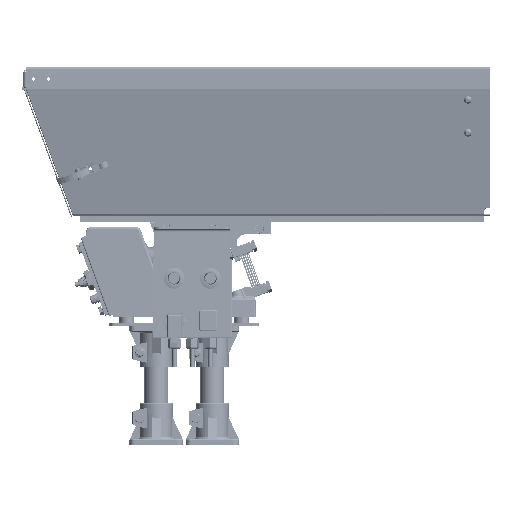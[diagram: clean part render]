
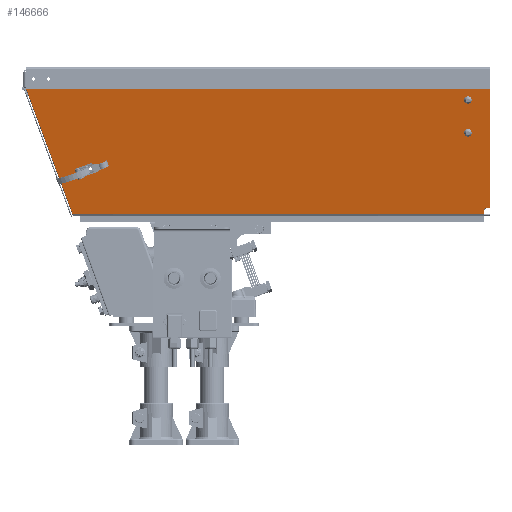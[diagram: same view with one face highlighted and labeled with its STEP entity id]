
A CAD part, front view. The second image highlights one B-rep face of the part: STEP entity #146666.
In plain terms, the highlighted planar face has unit normal (0, -0.982, -0.191).
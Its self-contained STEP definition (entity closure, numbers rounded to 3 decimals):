
#125 = EDGE_CURVE ( 'NONE', #52895, #129155, #135092, .T. ) ;
#811 = CARTESIAN_POINT ( 'NONE',  ( 313., -127.168, 139.767 ) ) ;
#1325 = VERTEX_POINT ( 'NONE', #59869 ) ;
#1544 = EDGE_CURVE ( 'NONE', #49439, #42062, #140634, .T. ) ;
#3778 = CIRCLE ( 'NONE', #60984, 2.75 ) ;
#6112 = CIRCLE ( 'NONE', #89555, 1.3 ) ;
#9141 = EDGE_CURVE ( 'NONE', #89306, #61274, #37746, .T. ) ;
#9212 = DIRECTION ( 'NONE',  ( 0., -0.982, -0.191 ) ) ;
#9929 = DIRECTION ( 'NONE',  ( 0., -0.982, -0.191 ) ) ;
#10908 = CIRCLE ( 'NONE', #94330, 3.05 ) ;
#11238 = DIRECTION ( 'NONE',  ( -1., 0., 0. ) ) ;
#12102 = AXIS2_PLACEMENT_3D ( 'NONE', #73956, #86628, #27735 ) ;
#13730 = ORIENTED_EDGE ( 'NONE', *, *, #88651, .F. ) ;
#14576 = EDGE_CURVE ( 'NONE', #31352, #125310, #98911, .T. ) ;
#15309 = VERTEX_POINT ( 'NONE', #136265 ) ;
#16466 = VERTEX_POINT ( 'NONE', #56481 ) ;
#17342 = EDGE_CURVE ( 'NONE', #77733, #35500, #86582, .T. ) ;
#19711 = DIRECTION ( 'NONE',  ( 0., -0.191, 0.982 ) ) ;
#20476 = CARTESIAN_POINT ( 'NONE',  ( 339.3, -100.24, 1.237 ) ) ;
#20735 = EDGE_CURVE ( 'NONE', #1325, #28592, #10908, .T. ) ;
#22790 = CARTESIAN_POINT ( 'NONE',  ( -333.156, -113.444, 69.163 ) ) ;
#24399 = VECTOR ( 'NONE', #135776, 1000. ) ;
#24671 = LINE ( 'NONE', #115642, #25720 ) ;
#24709 = CARTESIAN_POINT ( 'NONE',  ( 345., -102.077, 10.687 ) ) ;
#24834 = DIRECTION ( 'NONE',  ( 0., -0.982, -0.191 ) ) ;
#25095 = CARTESIAN_POINT ( 'NONE',  ( -350.6, -100.24, 1.237 ) ) ;
#25720 = VECTOR ( 'NONE', #11238, 1000. ) ;
#27735 = DIRECTION ( 'NONE',  ( 0., -0.191, 0.982 ) ) ;
#28487 = EDGE_CURVE ( 'NONE', #16466, #77733, #129018, .T. ) ;
#28567 = EDGE_LOOP ( 'NONE', ( #43508, #60426 ) ) ;
#28592 = VERTEX_POINT ( 'NONE', #102961 ) ;
#29916 = FACE_BOUND ( 'NONE', #28567, .T. ) ;
#31237 = ORIENTED_EDGE ( 'NONE', *, *, #125, .T. ) ;
#31352 = VERTEX_POINT ( 'NONE', #55138 ) ;
#32423 = EDGE_LOOP ( 'NONE', ( #121968, #127720 ) ) ;
#33342 = CARTESIAN_POINT ( 'NONE',  ( -320., -114.358, 73.864 ) ) ;
#35500 = VERTEX_POINT ( 'NONE', #120458 ) ;
#36662 = CARTESIAN_POINT ( 'NONE',  ( -302.268, -75.293, -127.107 ) ) ;
#37746 = LINE ( 'NONE', #25095, #70150 ) ;
#38177 = DIRECTION ( 'NONE',  ( 0., 0.982, 0.191 ) ) ;
#40377 = FACE_BOUND ( 'NONE', #48241, .T. ) ;
#40718 = CARTESIAN_POINT ( 'NONE',  ( 313., -137.271, 191.745 ) ) ;
#41847 = FACE_BOUND ( 'NONE', #32423, .T. ) ;
#42062 = VERTEX_POINT ( 'NONE', #63692 ) ;
#43314 = DIRECTION ( 'NONE',  ( 0., -0.982, -0.191 ) ) ;
#43508 = ORIENTED_EDGE ( 'NONE', *, *, #14576, .F. ) ;
#44321 = DIRECTION ( 'NONE',  ( 0., 0.191, -0.982 ) ) ;
#45896 = CARTESIAN_POINT ( 'NONE',  ( 313., -137.271, 191.745 ) ) ;
#46473 = CARTESIAN_POINT ( 'NONE',  ( 313., -126.586, 136.773 ) ) ;
#47333 = DIRECTION ( 'NONE',  ( 0., -0.982, -0.191 ) ) ;
#48241 = EDGE_LOOP ( 'NONE', ( #78030, #13730 ) ) ;
#48950 = DIRECTION ( 'NONE',  ( -1., 0., 0. ) ) ;
#49329 = DIRECTION ( 'NONE',  ( 0.342, 0.179, -0.922 ) ) ;
#49439 = VERTEX_POINT ( 'NONE', #22790 ) ;
#52577 = CARTESIAN_POINT ( 'NONE',  ( 348., -102.325, 11.963 ) ) ;
#52895 = VERTEX_POINT ( 'NONE', #135303 ) ;
#53064 = FACE_OUTER_BOUND ( 'NONE', #136710, .T. ) ;
#55138 = CARTESIAN_POINT ( 'NONE',  ( 313., -126.004, 133.779 ) ) ;
#56481 = CARTESIAN_POINT ( 'NONE',  ( 339.3, -100.99, 5.092 ) ) ;
#59703 = EDGE_CURVE ( 'NONE', #125310, #31352, #73101, .T. ) ;
#59869 = CARTESIAN_POINT ( 'NONE',  ( 313., -136.689, 188.751 ) ) ;
#60426 = ORIENTED_EDGE ( 'NONE', *, *, #59703, .F. ) ;
#60984 = AXIS2_PLACEMENT_3D ( 'NONE', #102575, #47333, #104771 ) ;
#61260 = EDGE_CURVE ( 'NONE', #129155, #15309, #24671, .T. ) ;
#61274 = VERTEX_POINT ( 'NONE', #79152 ) ;
#62253 = AXIS2_PLACEMENT_3D ( 'NONE', #119459, #38177, #71759 ) ;
#63692 = CARTESIAN_POINT ( 'NONE',  ( -333.156, -114.493, 74.562 ) ) ;
#65703 = CARTESIAN_POINT ( 'NONE',  ( -333.156, -113.969, 71.863 ) ) ;
#66241 = VERTEX_POINT ( 'NONE', #33342 ) ;
#67374 = CIRCLE ( 'NONE', #134131, 2.75 ) ;
#67571 = DIRECTION ( 'NONE',  ( 0., 0.191, -0.982 ) ) ;
#67901 = CARTESIAN_POINT ( 'NONE',  ( 339.3, -100.99, 5.092 ) ) ;
#70150 = VECTOR ( 'NONE', #48950, 1000. ) ;
#71759 = DIRECTION ( 'NONE',  ( 0., -0.191, 0.982 ) ) ;
#73101 = CIRCLE ( 'NONE', #130282, 3.05 ) ;
#73956 = CARTESIAN_POINT ( 'NONE',  ( 0., -96.285, -19.112 ) ) ;
#77733 = VERTEX_POINT ( 'NONE', #24709 ) ;
#78030 = ORIENTED_EDGE ( 'NONE', *, *, #1544, .F. ) ;
#78386 = CARTESIAN_POINT ( 'NONE',  ( 349.3, -96.285, -19.112 ) ) ;
#79152 = CARTESIAN_POINT ( 'NONE',  ( -349.855, -100.24, 1.237 ) ) ;
#79848 = AXIS2_PLACEMENT_3D ( 'NONE', #146510, #9212, #44321 ) ;
#86582 = LINE ( 'NONE', #130597, #109467 ) ;
#86628 = DIRECTION ( 'NONE',  ( 0., 0.982, 0.191 ) ) ;
#86902 = DIRECTION ( 'NONE',  ( 0., -0.982, -0.191 ) ) ;
#87506 = ORIENTED_EDGE ( 'NONE', *, *, #17342, .T. ) ;
#88651 = EDGE_CURVE ( 'NONE', #42062, #49439, #67374, .T. ) ;
#89306 = VERTEX_POINT ( 'NONE', #20476 ) ;
#89555 = AXIS2_PLACEMENT_3D ( 'NONE', #52577, #86902, #19711 ) ;
#89785 = DIRECTION ( 'NONE',  ( 0., 0.191, -0.982 ) ) ;
#90338 = CARTESIAN_POINT ( 'NONE',  ( -333.156, -113.969, 71.863 ) ) ;
#91416 = DIRECTION ( 'NONE',  ( 0., -0.982, -0.191 ) ) ;
#92834 = ORIENTED_EDGE ( 'NONE', *, *, #118888, .T. ) ;
#93618 = VECTOR ( 'NONE', #49329, 1000. ) ;
#94330 = AXIS2_PLACEMENT_3D ( 'NONE', #45896, #91416, #67571 ) ;
#95593 = FACE_BOUND ( 'NONE', #142814, .T. ) ;
#96876 = ORIENTED_EDGE ( 'NONE', *, *, #104997, .F. ) ;
#98784 = CARTESIAN_POINT ( 'NONE',  ( -320., -114.882, 76.563 ) ) ;
#98911 = CIRCLE ( 'NONE', #79848, 3.05 ) ;
#99710 = CIRCLE ( 'NONE', #142617, 3.05 ) ;
#100005 = ORIENTED_EDGE ( 'NONE', *, *, #141010, .T. ) ;
#100503 = VECTOR ( 'NONE', #138017, 1000. ) ;
#100782 = EDGE_CURVE ( 'NONE', #89306, #16466, #111158, .T. ) ;
#102575 = CARTESIAN_POINT ( 'NONE',  ( -320., -114.882, 76.563 ) ) ;
#102961 = CARTESIAN_POINT ( 'NONE',  ( 313., -137.853, 194.739 ) ) ;
#104771 = DIRECTION ( 'NONE',  ( 0., 0.191, -0.982 ) ) ;
#104997 = EDGE_CURVE ( 'NONE', #66241, #123744, #3778, .T. ) ;
#106046 = LINE ( 'NONE', #36662, #93618 ) ;
#107639 = ORIENTED_EDGE ( 'NONE', *, *, #28487, .T. ) ;
#108471 = ORIENTED_EDGE ( 'NONE', *, *, #9141, .F. ) ;
#108785 = EDGE_CURVE ( 'NONE', #123744, #66241, #122929, .T. ) ;
#109342 = DIRECTION ( 'NONE',  ( 0., -0.982, -0.191 ) ) ;
#109467 = VECTOR ( 'NONE', #132813, 1000. ) ;
#111158 = LINE ( 'NONE', #67901, #24399 ) ;
#111911 = DIRECTION ( 'NONE',  ( 0., 0.191, -0.982 ) ) ;
#112072 = ORIENTED_EDGE ( 'NONE', *, *, #100782, .T. ) ;
#112374 = EDGE_CURVE ( 'NONE', #28592, #1325, #99710, .T. ) ;
#113455 = AXIS2_PLACEMENT_3D ( 'NONE', #98784, #9929, #89785 ) ;
#115642 = CARTESIAN_POINT ( 'NONE',  ( 350., -140.78, 209.795 ) ) ;
#116186 = ORIENTED_EDGE ( 'NONE', *, *, #61260, .T. ) ;
#118888 = EDGE_CURVE ( 'NONE', #15309, #61274, #106046, .T. ) ;
#119459 = CARTESIAN_POINT ( 'NONE',  ( 345., -100.99, 5.092 ) ) ;
#120458 = CARTESIAN_POINT ( 'NONE',  ( 348., -102.077, 10.687 ) ) ;
#120593 = ORIENTED_EDGE ( 'NONE', *, *, #108785, .F. ) ;
#121700 = DIRECTION ( 'NONE',  ( 0., 0.191, -0.982 ) ) ;
#121968 = ORIENTED_EDGE ( 'NONE', *, *, #20735, .F. ) ;
#122929 = CIRCLE ( 'NONE', #113455, 2.75 ) ;
#123744 = VERTEX_POINT ( 'NONE', #127791 ) ;
#125310 = VERTEX_POINT ( 'NONE', #811 ) ;
#126268 = DIRECTION ( 'NONE',  ( 0., 0.191, -0.982 ) ) ;
#127720 = ORIENTED_EDGE ( 'NONE', *, *, #112374, .F. ) ;
#127791 = CARTESIAN_POINT ( 'NONE',  ( -320., -115.407, 79.263 ) ) ;
#129018 = CIRCLE ( 'NONE', #62253, 5.7 ) ;
#129155 = VERTEX_POINT ( 'NONE', #136376 ) ;
#130282 = AXIS2_PLACEMENT_3D ( 'NONE', #46473, #24834, #126268 ) ;
#130597 = CARTESIAN_POINT ( 'NONE',  ( 348., -102.077, 10.687 ) ) ;
#132127 = PLANE ( 'NONE',  #12102 ) ;
#132813 = DIRECTION ( 'NONE',  ( 1., 0., 0. ) ) ;
#134131 = AXIS2_PLACEMENT_3D ( 'NONE', #65703, #43314, #111911 ) ;
#135092 = LINE ( 'NONE', #78386, #100503 ) ;
#135303 = CARTESIAN_POINT ( 'NONE',  ( 349.3, -102.325, 11.963 ) ) ;
#135776 = DIRECTION ( 'NONE',  ( 0., -0.191, 0.982 ) ) ;
#135863 = AXIS2_PLACEMENT_3D ( 'NONE', #90338, #146313, #121700 ) ;
#136265 = CARTESIAN_POINT ( 'NONE',  ( -427.185, -140.78, 209.795 ) ) ;
#136376 = CARTESIAN_POINT ( 'NONE',  ( 349.3, -140.78, 209.795 ) ) ;
#136710 = EDGE_LOOP ( 'NONE', ( #116186, #92834, #108471, #112072, #107639, #87506, #100005, #31237 ) ) ;
#138017 = DIRECTION ( 'NONE',  ( 0., -0.191, 0.982 ) ) ;
#140634 = CIRCLE ( 'NONE', #135863, 2.75 ) ;
#141010 = EDGE_CURVE ( 'NONE', #35500, #52895, #6112, .T. ) ;
#142617 = AXIS2_PLACEMENT_3D ( 'NONE', #40718, #109342, #143640 ) ;
#142814 = EDGE_LOOP ( 'NONE', ( #96876, #120593 ) ) ;
#143640 = DIRECTION ( 'NONE',  ( 0., 0.191, -0.982 ) ) ;
#146313 = DIRECTION ( 'NONE',  ( 0., -0.982, -0.191 ) ) ;
#146510 = CARTESIAN_POINT ( 'NONE',  ( 313., -126.586, 136.773 ) ) ;
#146666 = ADVANCED_FACE ( 'NONE', ( #95593, #40377, #29916, #41847, #53064 ), #132127, .F. ) ;
